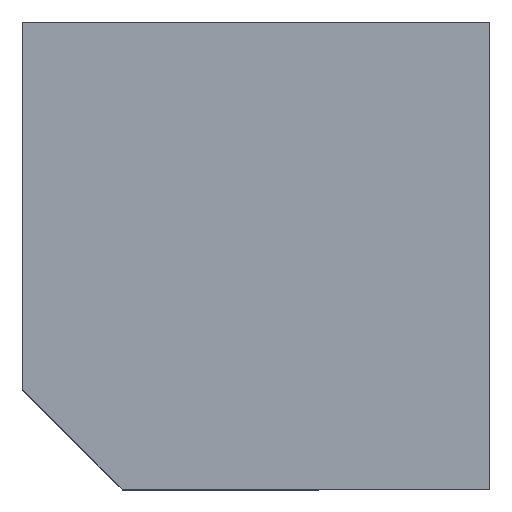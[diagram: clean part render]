
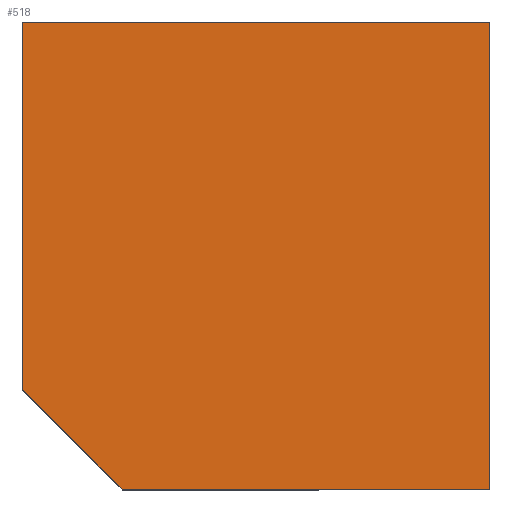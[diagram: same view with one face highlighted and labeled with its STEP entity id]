
A CAD part, top view. The second image highlights one B-rep face of the part: STEP entity #518.
In plain terms, the highlighted planar face has unit normal (0, 0, 1).
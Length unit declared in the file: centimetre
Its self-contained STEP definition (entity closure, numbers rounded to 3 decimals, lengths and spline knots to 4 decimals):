
#1 = DIRECTION ( 'NONE',  ( 0., 0., 1. ) ) ;
#5 = CARTESIAN_POINT ( 'NONE',  ( 0., 1000., 1000. ) ) ;
#14 = CARTESIAN_POINT ( 'NONE',  ( 0., 0., 1000. ) ) ;
#29 = CARTESIAN_POINT ( 'NONE',  ( 1000., 1000., 1000. ) ) ;
#42 = VECTOR ( 'NONE', #745, 100. ) ;
#64 = DIRECTION ( 'NONE',  ( 0.707, -0.707, 0. ) ) ;
#68 = VERTEX_POINT ( 'NONE', #721 ) ;
#70 = ORIENTED_EDGE ( 'NONE', *, *, #170, .T. ) ;
#130 = LINE ( 'NONE', #788, #575 ) ;
#170 = EDGE_CURVE ( 'NONE', #1049, #1014, #510, .T. ) ;
#193 = VECTOR ( 'NONE', #684, 100. ) ;
#199 = ORIENTED_EDGE ( 'NONE', *, *, #470, .T. ) ;
#223 = ORIENTED_EDGE ( 'NONE', *, *, #263, .T. ) ;
#251 = VECTOR ( 'NONE', #668, 100. ) ;
#263 = EDGE_CURVE ( 'NONE', #1014, #68, #996, .T. ) ;
#313 = EDGE_LOOP ( 'NONE', ( #546, #316, #70, #223, #199 ) ) ;
#314 = CARTESIAN_POINT ( 'NONE',  ( 1000., 0., 1000. ) ) ;
#316 = ORIENTED_EDGE ( 'NONE', *, *, #356, .T. ) ;
#321 = VERTEX_POINT ( 'NONE', #517 ) ;
#331 = LINE ( 'NONE', #5, #251 ) ;
#356 = EDGE_CURVE ( 'NONE', #1001, #1049, #130, .T. ) ;
#387 = CARTESIAN_POINT ( 'NONE',  ( 0., 1000., 1000. ) ) ;
#470 = EDGE_CURVE ( 'NONE', #68, #321, #793, .T. ) ;
#491 = EDGE_CURVE ( 'NONE', #321, #1001, #331, .T. ) ;
#494 = PLANE ( 'NONE',  #525 ) ;
#510 = LINE ( 'NONE', #14, #1052 ) ;
#517 = CARTESIAN_POINT ( 'NONE',  ( 0., 1000., 1000. ) ) ;
#518 = ADVANCED_FACE ( 'NONE', ( #987 ), #494, .T. ) ;
#525 = AXIS2_PLACEMENT_3D ( 'NONE', #814, #1, #980 ) ;
#546 = ORIENTED_EDGE ( 'NONE', *, *, #491, .T. ) ;
#570 = CARTESIAN_POINT ( 'NONE',  ( 213.54, 0., 1000. ) ) ;
#575 = VECTOR ( 'NONE', #64, 100. ) ;
#586 = DIRECTION ( 'NONE',  ( 1., 0., 0. ) ) ;
#668 = DIRECTION ( 'NONE',  ( 0., -1., 0. ) ) ;
#684 = DIRECTION ( 'NONE',  ( 0., 1., 0. ) ) ;
#721 = CARTESIAN_POINT ( 'NONE',  ( 1000., 1000., 1000. ) ) ;
#745 = DIRECTION ( 'NONE',  ( -1., 0., 0. ) ) ;
#788 = CARTESIAN_POINT ( 'NONE',  ( 106.77, 106.77, 1000. ) ) ;
#793 = LINE ( 'NONE', #387, #42 ) ;
#814 = CARTESIAN_POINT ( 'NONE',  ( 0., 0., 1000. ) ) ;
#980 = DIRECTION ( 'NONE',  ( 1., 0., 0. ) ) ;
#987 = FACE_OUTER_BOUND ( 'NONE', #313, .T. ) ;
#996 = LINE ( 'NONE', #29, #193 ) ;
#1001 = VERTEX_POINT ( 'NONE', #1041 ) ;
#1014 = VERTEX_POINT ( 'NONE', #314 ) ;
#1041 = CARTESIAN_POINT ( 'NONE',  ( 0., 213.54, 1000. ) ) ;
#1049 = VERTEX_POINT ( 'NONE', #570 ) ;
#1052 = VECTOR ( 'NONE', #586, 100. ) ;
